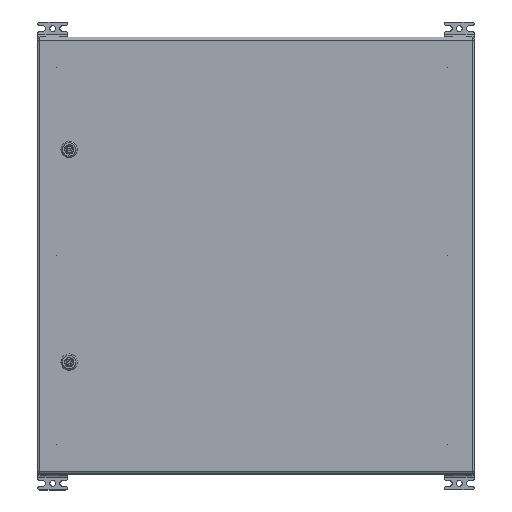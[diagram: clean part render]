
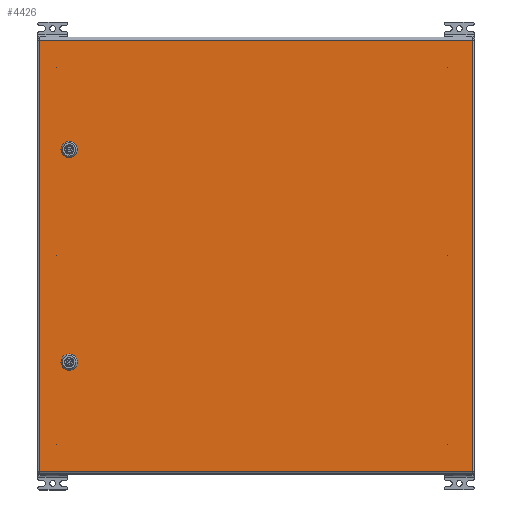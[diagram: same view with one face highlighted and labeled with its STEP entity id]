
A CAD part, top view. The second image highlights one B-rep face of the part: STEP entity #4426.
In plain terms, the highlighted planar face has unit normal (0, 0, 1).
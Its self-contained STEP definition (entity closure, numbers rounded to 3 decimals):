
#4426=ADVANCED_FACE('',(#11880,#11882,#11884),#11886,.T.);
#11880=FACE_BOUND('',#11881,.T.);
#11881=EDGE_LOOP('',(#33504,#33505,#33506,#33507));
#11882=FACE_BOUND('',#11883,.T.);
#11883=EDGE_LOOP('',(#33508,#33509,#33510,#33511,#33512,#33513,#33514,#33515));
#11884=FACE_BOUND('',#11885,.T.);
#11885=EDGE_LOOP('',(#33516,#33517,#33518,#33519,#33520,#33521,#33522,#33523));
#11886=PLANE('',#11887);
#11887=AXIS2_PLACEMENT_3D('',#11888,#11889,#11890);
#11888=CARTESIAN_POINT('',(0.,0.,1.5));
#11889=DIRECTION('',(0.,0.,1.));
#11890=DIRECTION('',(1.,0.,0.));
#33504=ORIENTED_EDGE('',*,*,#37248,.T.);
#33505=ORIENTED_EDGE('',*,*,#37249,.T.);
#33506=ORIENTED_EDGE('',*,*,#37171,.T.);
#33507=ORIENTED_EDGE('',*,*,#37250,.T.);
#33508=ORIENTED_EDGE('',*,*,#37251,.T.);
#33509=ORIENTED_EDGE('',*,*,#37252,.T.);
#33510=ORIENTED_EDGE('',*,*,#37253,.T.);
#33511=ORIENTED_EDGE('',*,*,#37254,.T.);
#33512=ORIENTED_EDGE('',*,*,#37255,.T.);
#33513=ORIENTED_EDGE('',*,*,#37256,.T.);
#33514=ORIENTED_EDGE('',*,*,#37257,.T.);
#33515=ORIENTED_EDGE('',*,*,#37258,.T.);
#33516=ORIENTED_EDGE('',*,*,#37259,.T.);
#33517=ORIENTED_EDGE('',*,*,#37260,.T.);
#33518=ORIENTED_EDGE('',*,*,#37261,.T.);
#33519=ORIENTED_EDGE('',*,*,#37262,.T.);
#33520=ORIENTED_EDGE('',*,*,#37263,.T.);
#33521=ORIENTED_EDGE('',*,*,#37264,.T.);
#33522=ORIENTED_EDGE('',*,*,#37265,.T.);
#33523=ORIENTED_EDGE('',*,*,#37266,.T.);
#37171=EDGE_CURVE('',#40274,#40272,#40275,.T.);
#37248=EDGE_CURVE('',#40411,#40412,#40413,.T.);
#37249=EDGE_CURVE('',#40412,#40274,#40414,.T.);
#37250=EDGE_CURVE('',#40272,#40411,#40415,.T.);
#37251=EDGE_CURVE('',#40416,#40417,#40418,.T.);
#37252=EDGE_CURVE('',#40417,#40419,#40420,.F.);
#37253=EDGE_CURVE('',#40419,#40421,#40422,.T.);
#37254=EDGE_CURVE('',#40421,#40423,#40424,.F.);
#37255=EDGE_CURVE('',#40423,#40425,#40426,.T.);
#37256=EDGE_CURVE('',#40425,#40427,#40428,.F.);
#37257=EDGE_CURVE('',#40427,#40429,#40430,.T.);
#37258=EDGE_CURVE('',#40429,#40416,#40431,.F.);
#37259=EDGE_CURVE('',#40432,#40433,#40434,.T.);
#37260=EDGE_CURVE('',#40433,#40435,#40436,.F.);
#37261=EDGE_CURVE('',#40435,#40437,#40438,.T.);
#37262=EDGE_CURVE('',#40437,#40439,#40440,.F.);
#37263=EDGE_CURVE('',#40439,#40441,#40442,.T.);
#37264=EDGE_CURVE('',#40441,#40443,#40444,.F.);
#37265=EDGE_CURVE('',#40443,#40445,#40446,.T.);
#37266=EDGE_CURVE('',#40445,#40432,#40447,.F.);
#40272=VERTEX_POINT('',#48314);
#40274=VERTEX_POINT('',#48319);
#40275=LINE('',#48320,#48321);
#40411=VERTEX_POINT('',#48635);
#40412=VERTEX_POINT('',#48636);
#40413=LINE('',#48637,#48638);
#40414=LINE('',#48640,#48641);
#40415=LINE('',#48643,#48644);
#40416=VERTEX_POINT('',#48646);
#40417=VERTEX_POINT('',#48647);
#40418=CIRCLE('',#48648,11.25);
#40419=VERTEX_POINT('',#48652);
#40420=LINE('',#48653,#48654);
#40421=VERTEX_POINT('',#48656);
#40422=CIRCLE('',#48657,11.25);
#40423=VERTEX_POINT('',#48661);
#40424=LINE('',#48662,#48663);
#40425=VERTEX_POINT('',#48665);
#40426=CIRCLE('',#48666,11.25);
#40427=VERTEX_POINT('',#48670);
#40428=LINE('',#48671,#48672);
#40429=VERTEX_POINT('',#48674);
#40430=CIRCLE('',#48675,11.25);
#40431=LINE('',#48679,#48680);
#40432=VERTEX_POINT('',#48682);
#40433=VERTEX_POINT('',#48683);
#40434=CIRCLE('',#48684,11.25);
#40435=VERTEX_POINT('',#48688);
#40436=LINE('',#48689,#48690);
#40437=VERTEX_POINT('',#48692);
#40438=CIRCLE('',#48693,11.25);
#40439=VERTEX_POINT('',#48697);
#40440=LINE('',#48698,#48699);
#40441=VERTEX_POINT('',#48701);
#40442=CIRCLE('',#48702,11.25);
#40443=VERTEX_POINT('',#48706);
#40444=LINE('',#48707,#48708);
#40445=VERTEX_POINT('',#48710);
#40446=CIRCLE('',#48711,11.25);
#40447=LINE('',#48715,#48716);
#48314=CARTESIAN_POINT('',(0.,0.,1.5));
#48319=CARTESIAN_POINT('',(0.,-792.,1.5));
#48320=CARTESIAN_POINT('',(0.,-792.,1.5));
#48321=VECTOR('',#48322,1.);
#48322=DIRECTION('',(0.,1.,0.));
#48635=CARTESIAN_POINT('',(-789.,0.,1.5));
#48636=CARTESIAN_POINT('',(-789.,-792.,1.5));
#48637=CARTESIAN_POINT('',(-789.,0.,1.5));
#48638=VECTOR('',#48639,1.);
#48639=DIRECTION('',(0.,-1.,0.));
#48640=CARTESIAN_POINT('',(-789.,-792.,1.5));
#48641=VECTOR('',#48642,1.);
#48642=DIRECTION('',(1.,0.,0.));
#48643=CARTESIAN_POINT('',(0.,0.,1.5));
#48644=VECTOR('',#48645,1.);
#48645=DIRECTION('',(-1.,0.,0.));
#48646=CARTESIAN_POINT('',(-599.1,-49.545,1.5));
#48647=CARTESIAN_POINT('',(-593.955,-44.4,1.5));
#48648=AXIS2_PLACEMENT_3D('',#48649,#48650,#48651);
#48649=CARTESIAN_POINT('',(-589.,-54.5,1.5));
#48650=DIRECTION('',(0.,0.,-1.));
#48651=DIRECTION('',(-0.898,0.44,0.));
#48652=CARTESIAN_POINT('',(-584.045,-44.4,1.5));
#48653=CARTESIAN_POINT('',(-584.045,-44.4,1.5));
#48654=VECTOR('',#48655,1.);
#48655=DIRECTION('',(-1.,0.,0.));
#48656=CARTESIAN_POINT('',(-578.9,-49.545,1.5));
#48657=AXIS2_PLACEMENT_3D('',#48658,#48659,#48660);
#48658=CARTESIAN_POINT('',(-589.,-54.5,1.5));
#48659=DIRECTION('',(0.,0.,-1.));
#48660=DIRECTION('',(0.44,0.898,0.));
#48661=CARTESIAN_POINT('',(-578.9,-59.455,1.5));
#48662=CARTESIAN_POINT('',(-578.9,-59.455,1.5));
#48663=VECTOR('',#48664,1.);
#48664=DIRECTION('',(0.,1.,0.));
#48665=CARTESIAN_POINT('',(-584.045,-64.6,1.5));
#48666=AXIS2_PLACEMENT_3D('',#48667,#48668,#48669);
#48667=CARTESIAN_POINT('',(-589.,-54.5,1.5));
#48668=DIRECTION('',(0.,0.,-1.));
#48669=DIRECTION('',(0.898,-0.44,0.));
#48670=CARTESIAN_POINT('',(-593.955,-64.6,1.5));
#48671=CARTESIAN_POINT('',(-593.955,-64.6,1.5));
#48672=VECTOR('',#48673,1.);
#48673=DIRECTION('',(1.,0.,0.));
#48674=CARTESIAN_POINT('',(-599.1,-59.455,1.5));
#48675=AXIS2_PLACEMENT_3D('',#48676,#48677,#48678);
#48676=CARTESIAN_POINT('',(-589.,-54.5,1.5));
#48677=DIRECTION('',(0.,0.,-1.));
#48678=DIRECTION('',(-0.44,-0.898,0.));
#48679=CARTESIAN_POINT('',(-599.1,-49.545,1.5));
#48680=VECTOR('',#48681,1.);
#48681=DIRECTION('',(0.,-1.,0.));
#48682=CARTESIAN_POINT('',(-210.1,-49.545,1.5));
#48683=CARTESIAN_POINT('',(-204.955,-44.4,1.5));
#48684=AXIS2_PLACEMENT_3D('',#48685,#48686,#48687);
#48685=CARTESIAN_POINT('',(-200.,-54.5,1.5));
#48686=DIRECTION('',(0.,0.,-1.));
#48687=DIRECTION('',(-0.898,0.44,0.));
#48688=CARTESIAN_POINT('',(-195.045,-44.4,1.5));
#48689=CARTESIAN_POINT('',(-195.045,-44.4,1.5));
#48690=VECTOR('',#48691,1.);
#48691=DIRECTION('',(-1.,0.,0.));
#48692=CARTESIAN_POINT('',(-189.9,-49.545,1.5));
#48693=AXIS2_PLACEMENT_3D('',#48694,#48695,#48696);
#48694=CARTESIAN_POINT('',(-200.,-54.5,1.5));
#48695=DIRECTION('',(0.,0.,-1.));
#48696=DIRECTION('',(0.44,0.898,0.));
#48697=CARTESIAN_POINT('',(-189.9,-59.455,1.5));
#48698=CARTESIAN_POINT('',(-189.9,-59.455,1.5));
#48699=VECTOR('',#48700,1.);
#48700=DIRECTION('',(0.,1.,0.));
#48701=CARTESIAN_POINT('',(-195.045,-64.6,1.5));
#48702=AXIS2_PLACEMENT_3D('',#48703,#48704,#48705);
#48703=CARTESIAN_POINT('',(-200.,-54.5,1.5));
#48704=DIRECTION('',(0.,0.,-1.));
#48705=DIRECTION('',(0.898,-0.44,0.));
#48706=CARTESIAN_POINT('',(-204.955,-64.6,1.5));
#48707=CARTESIAN_POINT('',(-204.955,-64.6,1.5));
#48708=VECTOR('',#48709,1.);
#48709=DIRECTION('',(1.,0.,0.));
#48710=CARTESIAN_POINT('',(-210.1,-59.455,1.5));
#48711=AXIS2_PLACEMENT_3D('',#48712,#48713,#48714);
#48712=CARTESIAN_POINT('',(-200.,-54.5,1.5));
#48713=DIRECTION('',(0.,0.,-1.));
#48714=DIRECTION('',(-0.44,-0.898,0.));
#48715=CARTESIAN_POINT('',(-210.1,-49.545,1.5));
#48716=VECTOR('',#48717,1.);
#48717=DIRECTION('',(0.,-1.,0.));
